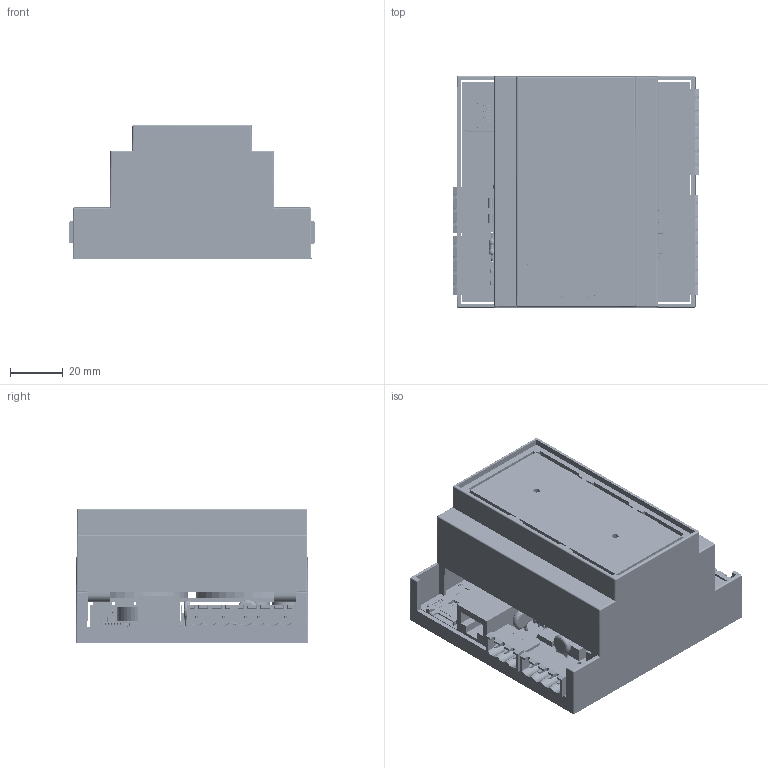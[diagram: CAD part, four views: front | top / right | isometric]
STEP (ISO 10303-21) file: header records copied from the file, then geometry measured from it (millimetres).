
FILE_DESCRIPTION (( 'STEP AP214' ), '1' );
FILE_NAME ('DDS629 Inscatolata.STEP', '2020-03-30T09:49:32', ( '' ), ( '' ), 'SwSTEP 2.0', 'SolidWorks 2020', '' );
FILE_SCHEMA (( 'AUTOMOTIVE_DESIGN' ));
Length unit declared in the file: millimetre
Products named in the file (289): C51; R54; C36; R23; User_Library-res1210; C31; User_Library-ind_0805; 787620928; R53; U11; C44; J1; R68; D5; TR6; R108; R125; TR1; User_Library-Kondensator_5mm; F3; 6872_4; User_Library-SOD80; R15; RR5; C61; C12; D21; User_Library-R38_100mils_Fillet; User_Library-TSS0P8; SW3dPS-RRCAT16_Extruded; R114; RR4; C46; User_Library-R38_100mils_Cylinder002; User_Library-DFS_DFS; User_Library-DFS_DFS001; K8; User_Library-R38_100mils; R27; SW3dPS-RRCAT16_Open_CASCADE_STEP_translator_6.2_256.2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
Assembly tree (429 placements, depth 7):
  DDS629 Inscatolata
    5MH53_PRT
    Base
    Bobina  x2
    Coperchio
    PCB
      Board
      C10
        0805_SMD_Resistor
      C11
        User_Library-RES_1609-0603
      C12
        User_Library-RES_1609-0603
      C13
        User_Library-RES_1609-0603
      C19
        User_Library-RES_1609-0603
      C2
        User_Library-RES_1609-0603
      C24
        User_Library-RES_1609-0603
      C25
        User_Library-RES_1609-0603
      C26
        User_Library-RES_1609-0603
      C29
        User_Library-1206_SMD_Resistor
      C3
        0805_SMD_Resistor
      C30
        User_Library-1206_SMD_Resistor
      C31
        User_Library-Kondensator_5mm
      C32
        User_Library-res1210
          User_Library-res1210_pad_1210___
          User_Library-res1210_res1210_body___
      C33
        User_Library-capasitores_electroliticos10x10,5
      C34
        User_Library-capasitores_electroliticos10x10,5
      C35
        User_Library-RES_1609-0603
      C36
        User_Library-RES_1609-0603
      C37
        0805_SMD_Resistor
      C38
        0805_SMD_Resistor
      C40
        0805_SMD_Resistor
      C41
        User_Library-RES_1609-0603
      C43
        User_Library-RES_1609-0603
      C44
        0805_SMD_Resistor
      C46
        cap-6,3x8
      C47
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Bounding box: 92.77 x 87.8 x 50.8 mm (x, y, z)
Volume: 132902.4 mm3; surface area: 102548.5 mm2
Topology: 506 solids, 506 shells, 18313 faces, 47181 edges, 30613 vertices
Faces by surface type: plane 10835, bspline 5001, cylinder 2323, cone 109, torus 37, sphere 8
Entity records: 319783 total; most frequent: CARTESIAN_POINT 63613, ORIENTED_EDGE 37880, DIRECTION 35175, EDGE_CURVE 18940, LINE 14023, VECTOR 14023, VERTEX_POINT 12275, AXIS2_PLACEMENT_3D 10576
